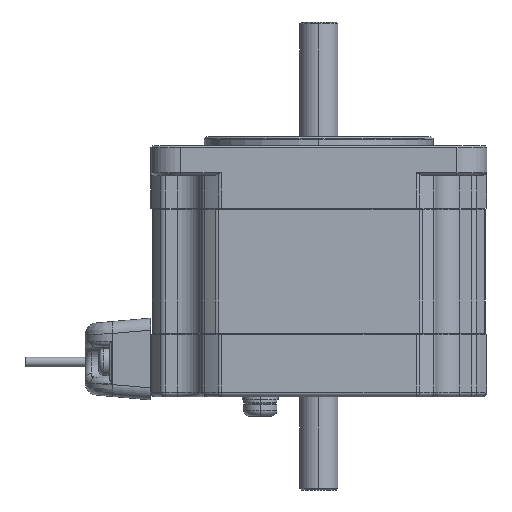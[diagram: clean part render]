
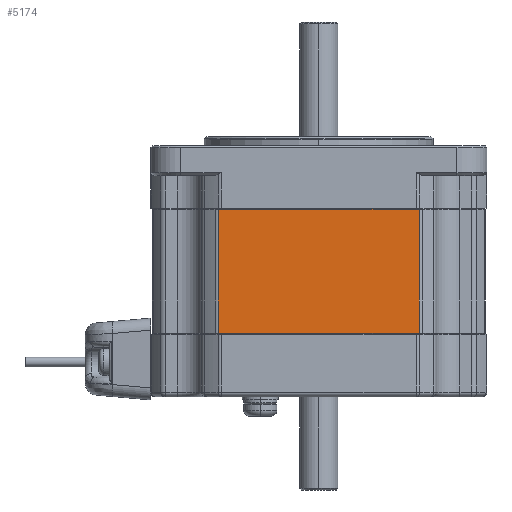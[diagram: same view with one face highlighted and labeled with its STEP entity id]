
A CAD part, left-side view. The second image highlights one B-rep face of the part: STEP entity #5174.
In plain terms, the highlighted planar face has unit normal (-1, 0, 0).
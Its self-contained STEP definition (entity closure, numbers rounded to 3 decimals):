
#1033 = CARTESIAN_POINT ( 'NONE',  ( -27.7, 16.714, -0.2 ) ) ;
#1171 = CARTESIAN_POINT ( 'NONE',  ( -27.7, 16.714, -20.8 ) ) ;
#1432 = CARTESIAN_POINT ( 'NONE',  ( -27.7, -16.714, -0.2 ) ) ;
#2169 = VERTEX_POINT ( 'NONE', #16971 ) ;
#2450 = VERTEX_POINT ( 'NONE', #1033 ) ;
#2677 = VERTEX_POINT ( 'NONE', #1171 ) ;
#3093 = VERTEX_POINT ( 'NONE', #1432 ) ;
#5135 = EDGE_CURVE ( 'NONE', #2677, #2450, #10483, .T. ) ;
#5143 = EDGE_CURVE ( 'NONE', #2677, #2169, #10507, .T. ) ;
#5149 = EDGE_CURVE ( 'NONE', #2169, #3093, #10525, .T. ) ;
#5164 = EDGE_CURVE ( 'NONE', #3093, #2450, #10570, .T. ) ;
#5174 = ADVANCED_FACE ( 'NONE', ( #13534 ), #10600, .T. ) ;
#10483 = LINE ( 'NONE', #10484, #13491 ) ;
#10484 = CARTESIAN_POINT ( 'NONE',  ( -27.7, 16.714, -21. ) ) ;
#10485 = DIRECTION ( 'NONE',  ( 0., 0., 1. ) ) ;
#10507 = LINE ( 'NONE', #10508, #13500 ) ;
#10508 = CARTESIAN_POINT ( 'NONE',  ( -27.7, -16.714, -20.8 ) ) ;
#10509 = DIRECTION ( 'NONE',  ( 0., -1., 0. ) ) ;
#10525 = LINE ( 'NONE', #10526, #13505 ) ;
#10526 = CARTESIAN_POINT ( 'NONE',  ( -27.7, -16.714, -21. ) ) ;
#10527 = DIRECTION ( 'NONE',  ( 0., 0., 1. ) ) ;
#10570 = LINE ( 'NONE', #10571, #13522 ) ;
#10571 = CARTESIAN_POINT ( 'NONE',  ( -27.7, 16.714, -0.2 ) ) ;
#10572 = DIRECTION ( 'NONE',  ( 0., 1., 0. ) ) ;
#10600 = PLANE ( 'NONE',  #13537 ) ;
#10601 = CARTESIAN_POINT ( 'NONE',  ( -27.7, 16.714, -21. ) ) ;
#10602 = DIRECTION ( 'NONE',  ( -1., 0., 0. ) ) ;
#10603 = DIRECTION ( 'NONE',  ( 0., 0., 1. ) ) ;
#11496 = EDGE_LOOP ( 'NONE', ( #16357, #16354, #16360, #16364 ) ) ;
#13491 = VECTOR ( 'NONE', #10485, 1000. ) ;
#13500 = VECTOR ( 'NONE', #10509, 1000. ) ;
#13505 = VECTOR ( 'NONE', #10527, 1000. ) ;
#13522 = VECTOR ( 'NONE', #10572, 1000. ) ;
#13534 = FACE_OUTER_BOUND ( 'NONE', #11496, .T. ) ;
#13537 = AXIS2_PLACEMENT_3D ( 'NONE', #10601, #10602, #10603 ) ;
#16354 = ORIENTED_EDGE ( 'NONE', *, *, #5164, .T. ) ;
#16357 = ORIENTED_EDGE ( 'NONE', *, *, #5149, .T. ) ;
#16360 = ORIENTED_EDGE ( 'NONE', *, *, #5135, .F. ) ;
#16364 = ORIENTED_EDGE ( 'NONE', *, *, #5143, .T. ) ;
#16971 = CARTESIAN_POINT ( 'NONE',  ( -27.7, -16.714, -20.8 ) ) ;
